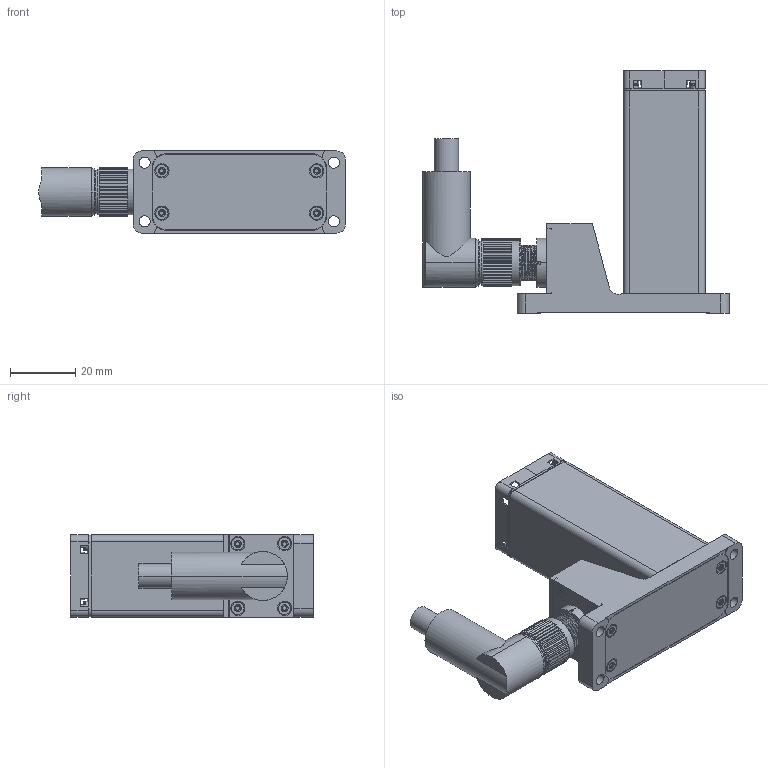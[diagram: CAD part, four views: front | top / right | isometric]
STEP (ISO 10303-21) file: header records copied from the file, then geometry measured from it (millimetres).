
FILE_DESCRIPTION((''),'2;1');
FILE_NAME('HUELLE_SW0007','2020-03-12T09:59:31',('scheu-1'),(''),'CREO PARAMETRIC BY PTC INC, 2018260','CREO PARAMETRIC BY PTC INC, 2018260','');
FILE_SCHEMA(('CONFIG_CONTROL_DESIGN'));
Products named in the file (1): HUELLE_SW0007
Bounding box: 94 x 74.45 x 25.2 mm (x, y, z)
Volume: 67745.9 mm3; surface area: 19864.2 mm2
Topology: 1 solids, 2 shells, 911 faces, 2573 edges, 1616 vertices
Faces by surface type: plane 348, cylinder 319, bspline 108, cone 63, torus 55, sphere 18
Entity records: 55164 total; most frequent: CARTESIAN_POINT 32706, ORIENTED_EDGE 5142, DIRECTION 4162, EDGE_CURVE 2571, VERTEX_POINT 1616, AXIS2_PLACEMENT_3D 1548, VECTOR 1066, LINE 1066
